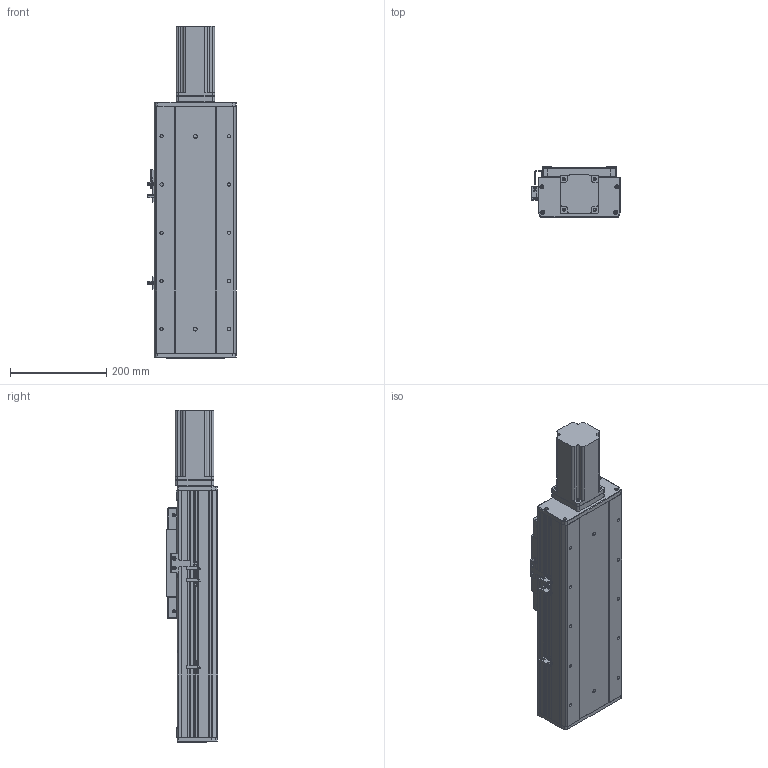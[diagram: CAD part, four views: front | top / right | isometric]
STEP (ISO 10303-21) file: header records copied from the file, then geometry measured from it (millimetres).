
FILE_DESCRIPTION (( 'STEP AP203' ), '1' );
FILE_NAME ('RY170F-L2020-300-MK.SLDASM_200.step', '2021-03-02T06:31:00', ( '盈信电脑' ), ( '东莞市道滘镇水果街19号' ), 'SwSTEP 2.0', 'SolidWorks 2012', '' );
FILE_SCHEMA (( 'CONFIG_CONTROL_DESIGN' ));
Length unit declared in the file: millimetre
Products named in the file (22): 怢湛750W萇儂ㄗ80遺ㄘ; 侐源滅袉蝶; RY170F-L2020-300-MK.SLDASM_200; 覜茼ん674; 750W萇儂梓袧蛌諉啣; RY170F-詩湍揤踡輸; RY170F-揤踡謫假蚾粣; 滅袉蝶18-24; 覜茼ん672; RY170F-后盖板(铝件）; RY170F俋离覜茼え; RY100F-詩湍揤踡謫; 滅袉蝶18-10; 侂狟400W侜督萇儂; RY170F-直连前盖板(铝件）; RY170F-滅鳥奻裔; RY170F-佪裝臏賑輸20蹟譫; RY170F-丝杆铝滑块连接板; 15; RY170F-300眻蟀祥凄詩湍-MK_200; RY170F-300眻蟀倰第菁釱-MK_200; RY170F-300眻蟀倰第奻裔啣-MK_200
Assembly tree (26 placements, depth 3):
  RY170F-L2020-300-MK.SLDASM_200
    RY170F-300眻蟀倰第菁釱-MK_200
    RY170F-300眻蟀祥凄詩湍-MK_200
    RY170F-300眻蟀倰第奻裔啣-MK_200  x2
    RY170F-滅鳥奻裔
    RY170F-佪裝臏賑輸20蹟譫
    RY170F-丝杆铝滑块连接板
    侂狟400W侜督萇儂
      15
    RY170F-直连前盖板(铝件）
    滅袉蝶18-10
    RY100F-詩湍揤踡謫
    RY170F-后盖板(铝件）
    覜茼ん672  x3
    RY170F俋离覜茼え
    RY170F-揤踡謫假蚾粣
    RY170F-詩湍揤踡輸  x2
    滅袉蝶18-24
    750W萇儂梓袧蛌諉啣
    怢湛750W萇儂ㄗ80遺ㄘ
    侐源滅袉蝶  x2
    覜茼ん674
Bounding box: 183.7 x 107 x 689 mm (x, y, z)
Volume: 4467491.1 mm3; surface area: 1231014 mm2
Topology: 25 solids, 25 shells, 2176 faces, 6005 edges, 3864 vertices
Faces by surface type: plane 1001, cylinder 953, cone 204, bspline 18
Entity records: 63891 total; most frequent: CARTESIAN_POINT 12703, DIRECTION 10421, ORIENTED_EDGE 10026, EDGE_CURVE 5013, AXIS2_PLACEMENT_3D 3688, VERTEX_POINT 3284, LINE 3045, VECTOR 3045
